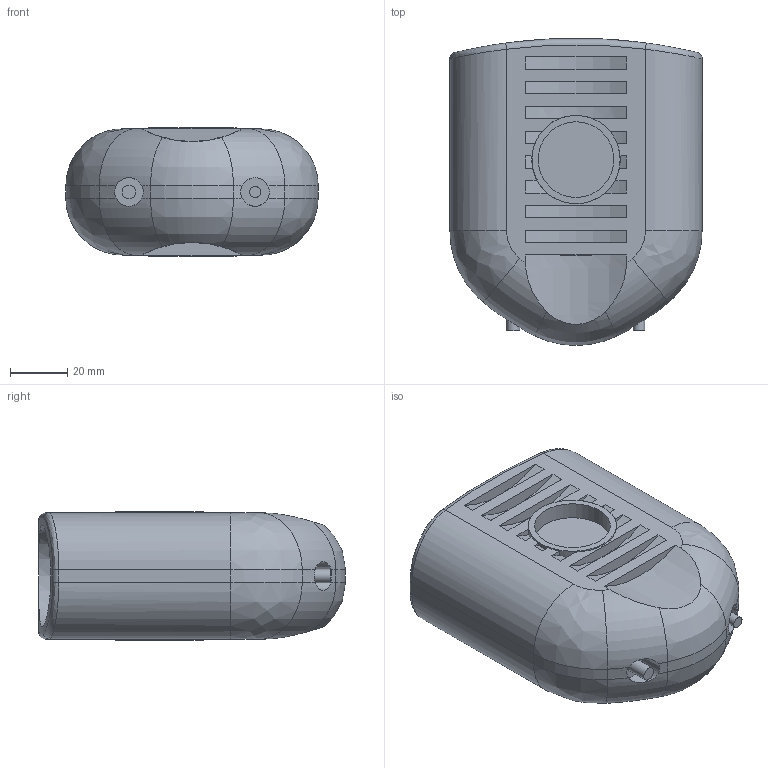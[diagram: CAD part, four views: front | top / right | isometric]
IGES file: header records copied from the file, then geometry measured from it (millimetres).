
Global section: file name: 490904032.ipt; native system: Autodesk Inventor 2015; preprocessor: unknown; author: Кирилл,,11,0; organization: 20170701.181418; date: 20171106.093710; units: millimetre
Bounding box: 88 x 107.07 x 44.88 mm (x, y, z)
Volume: 202427.9 mm3; surface area: 44063.8 mm2
Topology: 1 solids, 1 shells, 131 faces, 315 edges, 204 vertices
Faces by surface type: plane 64, revolution 45, cylinder 18, bspline 4
Full cylindrical faces by diameter (mm): 4 x1, 4.8 x1, 30.8 x2
